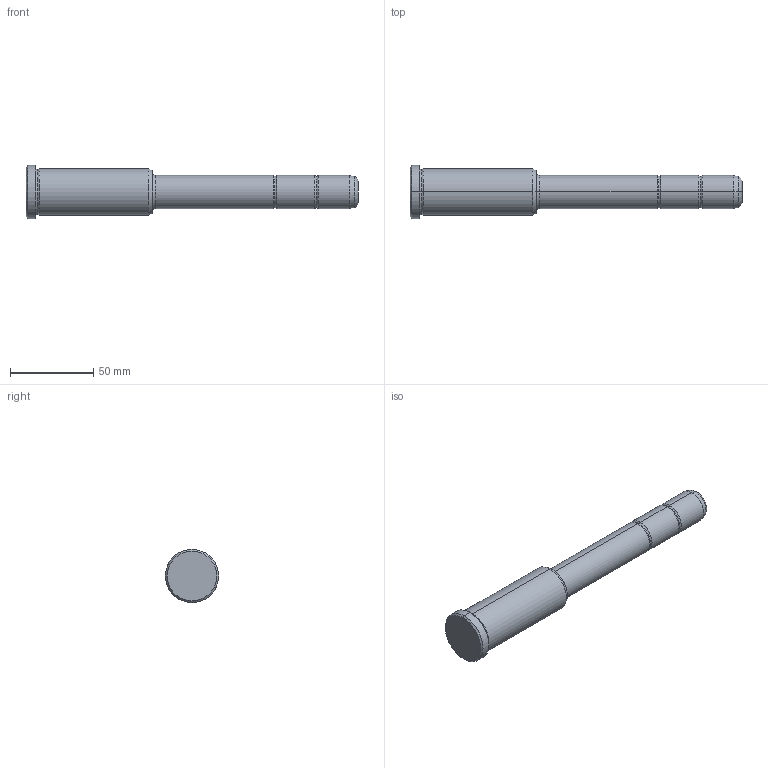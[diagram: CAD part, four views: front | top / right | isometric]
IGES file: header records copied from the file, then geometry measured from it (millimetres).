
Start section: START RECORD GO HERE.
Global section: file name: 351-20X76X200.igs; native system: DASSAULT SYSTEMES CATIA V5 R20 - www.3ds.com; preprocessor: CATIA Version 5 Release 20 ; author: Utente; organization: NB04-ASUS; date: 20210827.150809; units: millimetre
Bounding box: 200 x 32 x 32 mm (x, y, z)
Surface area: 15894.5 mm2 (no closed solid volume)
Topology: 0 solids, 0 shells, 36 faces, 204 edges, 204 vertices
Faces by surface type: revolution 32, plane 4
